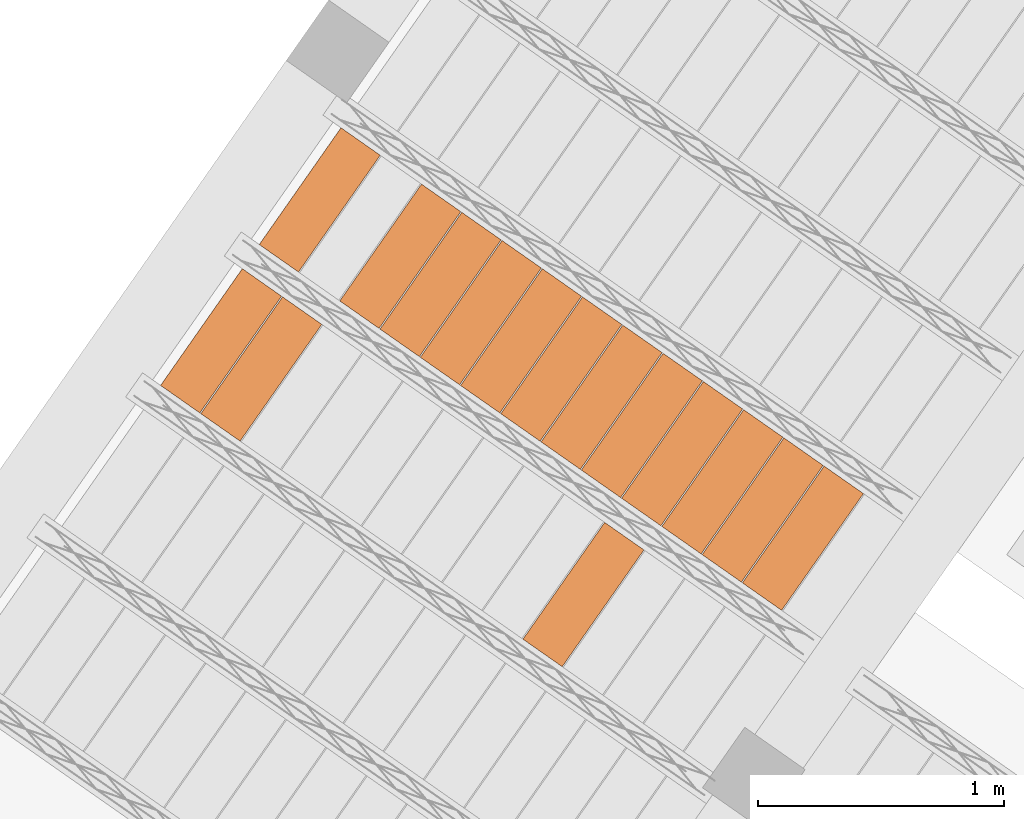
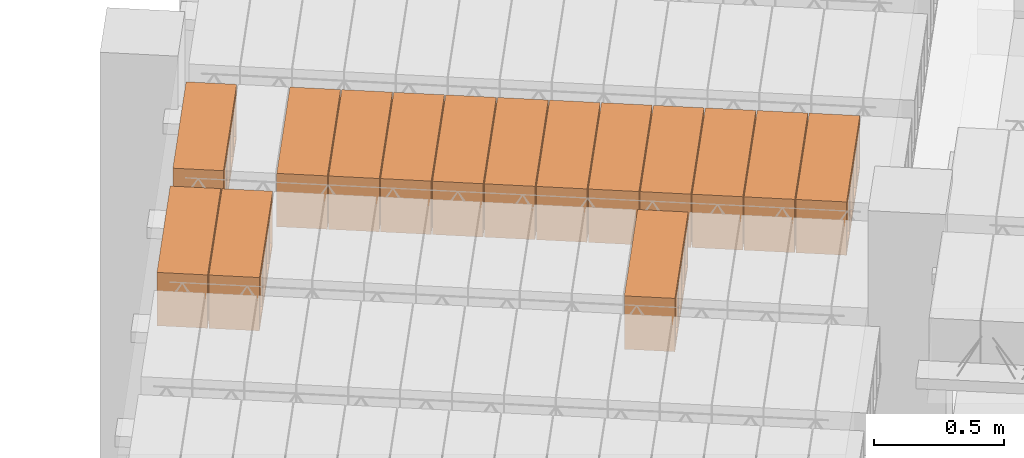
# One storey, part 59 of 80: 15 proxies.
"""IFC2X3 building model written with IfcOpenShell, lengths in metres."""

from ifc_helpers import new_model, entity, si_unit, converted_unit, derived_unit, direction, frame, origin, place, context, subcontext, project, spatial, polyline, outline, extrude, type_object, element, save


model = new_model("IFC2X3")

# Units and contexts
model_context = context("Model", 3, precision=1e-05, world=origin(), true_north=direction((6.123031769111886e-17, 1.0)))
body_context = subcontext(model_context, "Body", "Model", "MODEL_VIEW")
ifc_project = project(units=[si_unit("LENGTHUNIT", "METRE"), si_unit("AREAUNIT", "SQUARE_METRE"), si_unit("VOLUMEUNIT", "CUBIC_METRE"), converted_unit("PLANEANGLEUNIT", "DEGREE", entity("IfcPlaneAngleMeasure", 0.017453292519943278), si_unit("PLANEANGLEUNIT", "RADIAN"), dimensions=[0, 0, 0, 0, 0, 0, 0]), si_unit("MASSUNIT", "GRAM", prefix="KILO"), derived_unit("MASSDENSITYUNIT", [(si_unit("MASSUNIT", "GRAM", prefix="KILO"), 1), (si_unit("LENGTHUNIT", "METRE"), -3)]), derived_unit("IONCONCENTRATIONUNIT", [(si_unit("MASSUNIT", "GRAM", prefix="KILO"), 1), (si_unit("LENGTHUNIT", "METRE"), -3)]), derived_unit("MOMENTOFINERTIAUNIT", [(si_unit("LENGTHUNIT", "METRE"), 4)]), si_unit("TIMEUNIT", "SECOND"), si_unit("FREQUENCYUNIT", "HERTZ"), si_unit("THERMODYNAMICTEMPERATUREUNIT", "DEGREE_CELSIUS"), derived_unit("THERMALTRANSMITTANCEUNIT", [(si_unit("MASSUNIT", "GRAM", prefix="KILO"), 1), (si_unit("THERMODYNAMICTEMPERATUREUNIT", "KELVIN"), -1), (si_unit("TIMEUNIT", "SECOND"), -3)]), derived_unit("THERMALCONDUCTANCEUNIT", [(si_unit("MASSUNIT", "GRAM", prefix="KILO"), 1), (si_unit("THERMODYNAMICTEMPERATUREUNIT", "KELVIN"), -1), (si_unit("TIMEUNIT", "SECOND"), -3), (si_unit("LENGTHUNIT", "METRE"), 1)]), derived_unit("VOLUMETRICFLOWRATEUNIT", [(si_unit("LENGTHUNIT", "METRE", prefix="DECI"), 3), (si_unit("TIMEUNIT", "SECOND"), -1)]), derived_unit("MASSFLOWRATEUNIT", [(si_unit("MASSUNIT", "GRAM", prefix="KILO"), 1), (si_unit("TIMEUNIT", "SECOND"), -1)]), derived_unit("ROTATIONALFREQUENCYUNIT", [(si_unit("TIMEUNIT", "SECOND"), -1)]), si_unit("ELECTRICCURRENTUNIT", "AMPERE"), si_unit("ELECTRICVOLTAGEUNIT", "VOLT"), si_unit("POWERUNIT", "WATT"), si_unit("FORCEUNIT", "NEWTON", prefix="KILO"), si_unit("ILLUMINANCEUNIT", "LUX"), si_unit("LUMINOUSFLUXUNIT", "LUMEN"), si_unit("LUMINOUSINTENSITYUNIT", "CANDELA"), si_unit("ENERGYUNIT", "JOULE"), derived_unit("USERDEFINED", [(si_unit("MASSUNIT", "GRAM", prefix="KILO"), -1), (si_unit("LENGTHUNIT", "METRE"), -2), (si_unit("TIMEUNIT", "SECOND"), 3), (si_unit("LUMINOUSFLUXUNIT", "LUMEN"), 1)]), derived_unit("USERDEFINED", [(si_unit("MASSUNIT", "GRAM", prefix="KILO"), 1), (si_unit("TIMEUNIT", "SECOND"), -3), (si_unit("LENGTHUNIT", "METRE"), 3), (si_unit("ELECTRICCURRENTUNIT", "AMPERE"), -2)]), derived_unit("SOUNDPOWERUNIT", [(si_unit("MASSUNIT", "GRAM", prefix="KILO"), 1), (si_unit("TIMEUNIT", "SECOND"), -3), (si_unit("LENGTHUNIT", "METRE"), 2)]), derived_unit("SOUNDPRESSUREUNIT", [(si_unit("MASSUNIT", "GRAM", prefix="KILO"), 1), (si_unit("LENGTHUNIT", "METRE"), -1), (si_unit("TIMEUNIT", "SECOND"), -2)]), derived_unit("LINEARVELOCITYUNIT", [(si_unit("LENGTHUNIT", "METRE"), 1), (si_unit("TIMEUNIT", "SECOND"), -1)]), si_unit("PRESSUREUNIT", "PASCAL"), derived_unit("USERDEFINED", [(si_unit("MASSUNIT", "GRAM", prefix="KILO"), 1), (si_unit("LENGTHUNIT", "METRE"), -2), (si_unit("TIMEUNIT", "SECOND"), -2)]), derived_unit("LINEARFORCEUNIT", [(si_unit("MASSUNIT", "GRAM", prefix="KILO"), 1), (si_unit("TIMEUNIT", "SECOND"), -2)]), derived_unit("PLANARFORCEUNIT", [(si_unit("MASSUNIT", "GRAM", prefix="KILO"), 1), (si_unit("LENGTHUNIT", "METRE"), -1), (si_unit("TIMEUNIT", "SECOND"), -2)]), derived_unit("SPECIFICHEATCAPACITYUNIT", [(si_unit("THERMODYNAMICTEMPERATUREUNIT", "KELVIN"), -1), (si_unit("LENGTHUNIT", "METRE"), 2), (si_unit("TIMEUNIT", "SECOND"), -2)]), derived_unit("HEATFLUXDENSITYUNIT", [(si_unit("MASSUNIT", "GRAM", prefix="KILO"), 1), (si_unit("TIMEUNIT", "SECOND"), -3)]), derived_unit("HEATINGVALUEUNIT", [(si_unit("LENGTHUNIT", "METRE"), 2), (si_unit("TIMEUNIT", "SECOND"), -2)]), derived_unit("VAPORPERMEABILITYUNIT", [(si_unit("LENGTHUNIT", "METRE"), -1), (si_unit("TIMEUNIT", "SECOND"), 1)]), derived_unit("DYNAMICVISCOSITYUNIT", [(si_unit("MASSUNIT", "GRAM", prefix="KILO"), 1), (si_unit("TIMEUNIT", "SECOND"), -1), (si_unit("LENGTHUNIT", "METRE"), -1)]), derived_unit("THERMALEXPANSIONCOEFFICIENTUNIT", [(si_unit("THERMODYNAMICTEMPERATUREUNIT", "KELVIN"), -1)]), derived_unit("MODULUSOFELASTICITYUNIT", [(si_unit("MASSUNIT", "GRAM", prefix="KILO"), 1), (si_unit("LENGTHUNIT", "METRE"), -1), (si_unit("TIMEUNIT", "SECOND"), -2)]), derived_unit("ISOTHERMALMOISTURECAPACITYUNIT", [(si_unit("MASSUNIT", "GRAM", prefix="KILO"), -1), (si_unit("LENGTHUNIT", "METRE"), 3)]), derived_unit("MOISTUREDIFFUSIVITYUNIT", [(si_unit("TIMEUNIT", "SECOND"), -1), (si_unit("LENGTHUNIT", "METRE"), 2)]), derived_unit("MASSPERLENGTHUNIT", [(si_unit("MASSUNIT", "GRAM", prefix="KILO"), 1), (si_unit("LENGTHUNIT", "METRE"), -1)]), derived_unit("THERMALRESISTANCEUNIT", [(si_unit("MASSUNIT", "GRAM", prefix="KILO"), -1), (si_unit("TIMEUNIT", "SECOND"), 3), (si_unit("THERMODYNAMICTEMPERATUREUNIT", "KELVIN"), 1)]), derived_unit("ACCELERATIONUNIT", [(si_unit("LENGTHUNIT", "METRE"), 1), (si_unit("TIMEUNIT", "SECOND"), -2)]), derived_unit("ANGULARVELOCITYUNIT", [(si_unit("TIMEUNIT", "SECOND"), -1), (si_unit("PLANEANGLEUNIT", "RADIAN"), 1)]), derived_unit("LINEARSTIFFNESSUNIT", [(si_unit("MASSUNIT", "GRAM", prefix="KILO"), 1), (si_unit("TIMEUNIT", "SECOND"), -2)]), derived_unit("WARPINGCONSTANTUNIT", [(si_unit("LENGTHUNIT", "METRE"), 6)]), derived_unit("LINEARMOMENTUNIT", [(si_unit("MASSUNIT", "GRAM", prefix="KILO"), 1), (si_unit("LENGTHUNIT", "METRE"), 1), (si_unit("TIMEUNIT", "SECOND"), -2)]), derived_unit("TORQUEUNIT", [(si_unit("MASSUNIT", "GRAM", prefix="KILO"), 1), (si_unit("LENGTHUNIT", "METRE"), 2), (si_unit("TIMEUNIT", "SECOND"), -2)])], contexts=[model_context])

# Site, building, storey
site_placement = place(None, origin())
site = spatial("IfcSite", under=ifc_project, at=site_placement, Name="Default", CompositionType="ELEMENT")
building_placement = place(site_placement, origin())
building = spatial("IfcBuilding", under=site, at=building_placement, CompositionType="ELEMENT")
storey_placement = place(building_placement, frame((0.0, 0.0, 95.94)))
storey = spatial("IfcBuildingStorey", under=building, at=storey_placement, Name="PB", CompositionType="ELEMENT", Elevation=95.94)

# Proxies
building_element_proxy_type_1 = type_object("IfcBuildingElementProxyType", Name="Bovedilla 3-5 (Paño 2)", PredefinedType="USERDEFINED")
proxy_1_placement = place(storey_placement, origin())
element("IfcBuildingElementProxy", 1, at=proxy_1_placement, inside=storey, type_object=building_element_proxy_type_1, Name="Bovedilla 3-5 (Paño 2)", ObjectType="FORM", context=body_context, shape_type="SweptSolid", body=[
    extrude(outline(polyline([(-0.29, -0.12500000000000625), (0.2900000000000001, -0.12500000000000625), (0.2900000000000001, 0.12500000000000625), (-0.29, 0.12500000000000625), (-0.29, -0.12500000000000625)]), holes=[polyline([(0.2700000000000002, -0.10499999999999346), (0.1550000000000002, -0.10499999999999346), (0.1550000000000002, 0.10499999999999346), (0.2700000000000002, 0.10499999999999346), (0.2700000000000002, 0.042499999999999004), (0.2700000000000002, -0.10499999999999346)]), polyline([(0.009999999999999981, -0.10499999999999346), (0.009999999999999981, 0.10499999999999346), (0.13499999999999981, 0.10499999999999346), (0.13499999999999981, -0.10499999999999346), (0.009999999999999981, -0.10499999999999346)]), polyline([(-0.13499999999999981, 0.10499999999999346), (-0.009999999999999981, 0.10499999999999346), (-0.009999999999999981, -0.10499999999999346), (-0.13499999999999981, -0.10499999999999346), (-0.13499999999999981, 0.10499999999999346)]), polyline([(-0.2700000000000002, -0.10499999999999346), (-0.2700000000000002, 0.042499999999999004), (-0.2700000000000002, 0.10499999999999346), (-0.1550000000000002, 0.10499999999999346), (-0.1550000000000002, -0.10499999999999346), (-0.2700000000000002, -0.10499999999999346)])]), frame((1.3715124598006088, 3.0685572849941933, 2.945000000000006), z_axis=(0.8191520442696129, -0.5735764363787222, 0.0), x_axis=(-0.5735764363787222, -0.8191520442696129, 0.0)), (0.0, 0.0, 1.0), 0.19499999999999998),
])
building_element_proxy_type_2 = type_object("IfcBuildingElementProxyType", Name="Bovedilla 3-13 (Paño 2)", PredefinedType="USERDEFINED")
proxy_2_placement = place(storey_placement, origin())
element("IfcBuildingElementProxy", 2, at=proxy_2_placement, inside=storey, type_object=building_element_proxy_type_2, Name="Bovedilla 3-13 (Paño 2)", ObjectType="FORM", context=body_context, shape_type="SweptSolid", body=[
    extrude(outline(polyline([(-0.29000000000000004, -0.12500000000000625), (0.29000000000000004, -0.12500000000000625), (0.29000000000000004, 0.12500000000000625), (-0.29000000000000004, 0.12500000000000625), (-0.29000000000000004, -0.12500000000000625)]), holes=[polyline([(0.27000000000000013, -0.10499999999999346), (0.15500000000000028, -0.10499999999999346), (0.15500000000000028, 0.10499999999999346), (0.27000000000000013, 0.10499999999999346), (0.27000000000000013, 0.042499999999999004), (0.27000000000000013, -0.10499999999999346)]), polyline([(0.009999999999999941, -0.10499999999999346), (0.009999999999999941, 0.10499999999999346), (0.13499999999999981, 0.10499999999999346), (0.13499999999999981, -0.10499999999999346), (0.009999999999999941, -0.10499999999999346)]), polyline([(-0.13499999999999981, 0.10499999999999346), (-0.009999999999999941, 0.10499999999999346), (-0.009999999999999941, -0.10499999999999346), (-0.13499999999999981, -0.10499999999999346), (-0.13499999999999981, 0.10499999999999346)]), polyline([(-0.27000000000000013, -0.10499999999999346), (-0.27000000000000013, 0.042499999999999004), (-0.27000000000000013, 0.10499999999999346), (-0.15500000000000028, 0.10499999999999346), (-0.15500000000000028, -0.10499999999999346), (-0.27000000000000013, -0.10499999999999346)])]), frame((0.06086918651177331, 3.9862795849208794, 2.945000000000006), z_axis=(0.8191520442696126, -0.5735764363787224, 0.0), x_axis=(-0.5735764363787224, -0.8191520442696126, 0.0)), (0.0, 0.0, 1.0), 0.19500000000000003),
])
building_element_proxy_type_3 = type_object("IfcBuildingElementProxyType", Name="Bovedilla 3-14 (Paño 2)", PredefinedType="USERDEFINED")
proxy_3_placement = place(storey_placement, origin())
element("IfcBuildingElementProxy", 3, at=proxy_3_placement, inside=storey, type_object=building_element_proxy_type_3, Name="Bovedilla 3-14 (Paño 2)", ObjectType="FORM", context=body_context, shape_type="SweptSolid", body=[
    extrude(outline(polyline([(-0.29000000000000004, -0.12500000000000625), (0.29000000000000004, -0.12500000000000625), (0.29000000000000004, 0.12500000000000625), (-0.29000000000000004, 0.12500000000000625), (-0.29000000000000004, -0.12500000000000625)]), holes=[polyline([(0.27000000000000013, -0.10499999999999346), (0.15500000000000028, -0.10499999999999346), (0.15500000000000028, 0.10499999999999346), (0.27000000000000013, 0.10499999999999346), (0.27000000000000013, 0.042499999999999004), (0.27000000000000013, -0.10499999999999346)]), polyline([(0.009999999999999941, -0.10499999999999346), (0.009999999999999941, 0.10499999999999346), (0.13499999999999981, 0.10499999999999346), (0.13499999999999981, -0.10499999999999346), (0.009999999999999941, -0.10499999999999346)]), polyline([(-0.13499999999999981, 0.10499999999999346), (-0.009999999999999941, 0.10499999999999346), (-0.009999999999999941, -0.10499999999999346), (-0.13499999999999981, -0.10499999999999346), (-0.13499999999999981, 0.10499999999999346)]), polyline([(-0.27000000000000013, -0.10499999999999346), (-0.27000000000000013, 0.042499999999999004), (-0.27000000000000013, 0.10499999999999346), (-0.15500000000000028, 0.10499999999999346), (-0.15500000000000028, -0.10499999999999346), (-0.27000000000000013, -0.10499999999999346)])]), frame((-0.1029612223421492, 4.100994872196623, 2.945000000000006), z_axis=(0.8191520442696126, -0.5735764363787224, 0.0), x_axis=(-0.5735764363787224, -0.8191520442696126, 0.0)), (0.0, 0.0, 1.0), 0.19500000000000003),
])
building_element_proxy_type_4 = type_object("IfcBuildingElementProxyType", Name="Bovedilla 4-2 (Paño 2)", PredefinedType="USERDEFINED")
proxy_4_placement = place(storey_placement, origin())
element("IfcBuildingElementProxy", 4, at=proxy_4_placement, inside=storey, type_object=building_element_proxy_type_4, Name="Bovedilla 4-2 (Paño 2)", ObjectType="FORM", context=body_context, shape_type="SweptSolid", body=[
    extrude(outline(polyline([(-0.29, -0.12500000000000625), (0.29, -0.12500000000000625), (0.29, 0.12500000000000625), (-0.29, 0.12500000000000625), (-0.29, -0.12500000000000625)]), holes=[polyline([(0.2700000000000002, -0.10499999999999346), (0.1550000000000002, -0.10499999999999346), (0.1550000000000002, 0.10499999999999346), (0.2700000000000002, 0.10499999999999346), (0.2700000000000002, 0.042499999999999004), (0.2700000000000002, -0.10499999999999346)]), polyline([(0.009999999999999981, -0.10499999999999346), (0.009999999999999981, 0.10499999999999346), (0.13499999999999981, 0.10499999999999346), (0.13499999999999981, -0.10499999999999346), (0.009999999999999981, -0.10499999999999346)]), polyline([(-0.13499999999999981, 0.10499999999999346), (-0.009999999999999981, 0.10499999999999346), (-0.009999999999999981, -0.10499999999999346), (-0.13499999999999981, -0.10499999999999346), (-0.13499999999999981, 0.10499999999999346)]), polyline([(-0.2700000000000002, -0.10499999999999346), (-0.2700000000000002, 0.042499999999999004), (-0.2700000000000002, 0.10499999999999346), (-0.1550000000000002, 0.10499999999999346), (-0.1550000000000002, -0.10499999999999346), (-0.2700000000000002, -0.10499999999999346)])]), frame((2.2645071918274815, 3.2978178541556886, 2.945000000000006), z_axis=(0.819152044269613, -0.5735764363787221, 0.0), x_axis=(-0.5735764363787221, -0.819152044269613, 0.0)), (0.0, 0.0, 1.0), 0.19499999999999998),
])
building_element_proxy_type_5 = type_object("IfcBuildingElementProxyType", Name="Bovedilla 4-3 (Paño 2)", PredefinedType="USERDEFINED")
proxy_5_placement = place(storey_placement, origin())
element("IfcBuildingElementProxy", 5, at=proxy_5_placement, inside=storey, type_object=building_element_proxy_type_5, Name="Bovedilla 4-3 (Paño 2)", ObjectType="FORM", context=body_context, shape_type="SweptSolid", body=[
    extrude(outline(polyline([(-0.29, -0.12500000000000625), (0.29, -0.12500000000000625), (0.29, 0.12500000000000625), (-0.29, 0.12500000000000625), (-0.29, -0.12500000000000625)]), holes=[polyline([(0.2700000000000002, -0.10499999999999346), (0.1550000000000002, -0.10499999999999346), (0.1550000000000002, 0.10499999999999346), (0.2700000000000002, 0.10499999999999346), (0.2700000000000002, 0.042499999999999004), (0.2700000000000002, -0.10499999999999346)]), polyline([(0.009999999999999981, -0.10499999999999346), (0.009999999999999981, 0.10499999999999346), (0.13499999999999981, 0.10499999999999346), (0.13499999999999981, -0.10499999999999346), (0.009999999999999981, -0.10499999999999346)]), polyline([(-0.13499999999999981, 0.10499999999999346), (-0.009999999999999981, 0.10499999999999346), (-0.009999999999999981, -0.10499999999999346), (-0.13499999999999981, -0.10499999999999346), (-0.13499999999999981, 0.10499999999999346)]), polyline([(-0.2700000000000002, -0.10499999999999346), (-0.2700000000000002, 0.042499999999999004), (-0.2700000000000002, 0.10499999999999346), (-0.1550000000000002, 0.10499999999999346), (-0.1550000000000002, -0.10499999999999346), (-0.2700000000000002, -0.10499999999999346)])]), frame((2.100676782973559, 3.412533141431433, 2.945000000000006), z_axis=(0.819152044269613, -0.5735764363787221, 0.0), x_axis=(-0.5735764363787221, -0.819152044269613, 0.0)), (0.0, 0.0, 1.0), 0.19499999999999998),
])
building_element_proxy_type_6 = type_object("IfcBuildingElementProxyType", Name="Bovedilla 4-4 (Paño 2)", PredefinedType="USERDEFINED")
proxy_6_placement = place(storey_placement, origin())
element("IfcBuildingElementProxy", 6, at=proxy_6_placement, inside=storey, type_object=building_element_proxy_type_6, Name="Bovedilla 4-4 (Paño 2)", ObjectType="FORM", context=body_context, shape_type="SweptSolid", body=[
    extrude(outline(polyline([(-0.29, -0.12500000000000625), (0.29, -0.12500000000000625), (0.29, 0.12500000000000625), (-0.29, 0.12500000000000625), (-0.29, -0.12500000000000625)]), holes=[polyline([(0.2700000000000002, -0.10499999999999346), (0.1550000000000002, -0.10499999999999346), (0.1550000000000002, 0.10499999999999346), (0.2700000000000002, 0.10499999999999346), (0.2700000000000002, 0.042499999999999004), (0.2700000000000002, -0.10499999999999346)]), polyline([(0.009999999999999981, -0.10499999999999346), (0.009999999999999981, 0.10499999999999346), (0.13499999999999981, 0.10499999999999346), (0.13499999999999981, -0.10499999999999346), (0.009999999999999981, -0.10499999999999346)]), polyline([(-0.13499999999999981, 0.10499999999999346), (-0.009999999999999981, 0.10499999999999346), (-0.009999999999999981, -0.10499999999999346), (-0.13499999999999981, -0.10499999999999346), (-0.13499999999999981, 0.10499999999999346)]), polyline([(-0.2700000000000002, -0.10499999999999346), (-0.2700000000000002, 0.042499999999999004), (-0.2700000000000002, 0.10499999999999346), (-0.1550000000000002, 0.10499999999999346), (-0.1550000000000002, -0.10499999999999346), (-0.2700000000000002, -0.10499999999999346)])]), frame((1.9368463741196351, 3.5272484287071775, 2.945000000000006), z_axis=(0.819152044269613, -0.5735764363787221, 0.0), x_axis=(-0.5735764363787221, -0.819152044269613, 0.0)), (0.0, 0.0, 1.0), 0.19499999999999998),
])
building_element_proxy_type_7 = type_object("IfcBuildingElementProxyType", Name="Bovedilla 4-5 (Paño 2)", PredefinedType="USERDEFINED")
proxy_7_placement = place(storey_placement, origin())
element("IfcBuildingElementProxy", 7, at=proxy_7_placement, inside=storey, type_object=building_element_proxy_type_7, Name="Bovedilla 4-5 (Paño 2)", ObjectType="FORM", context=body_context, shape_type="SweptSolid", body=[
    extrude(outline(polyline([(-0.29, -0.12500000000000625), (0.29, -0.12500000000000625), (0.29, 0.12500000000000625), (-0.29, 0.12500000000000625), (-0.29, -0.12500000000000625)]), holes=[polyline([(0.2700000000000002, -0.10499999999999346), (0.1550000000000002, -0.10499999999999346), (0.1550000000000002, 0.10499999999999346), (0.2700000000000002, 0.10499999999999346), (0.2700000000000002, 0.042499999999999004), (0.2700000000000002, -0.10499999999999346)]), polyline([(0.009999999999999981, -0.10499999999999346), (0.009999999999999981, 0.10499999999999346), (0.13499999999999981, 0.10499999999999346), (0.13499999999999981, -0.10499999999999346), (0.009999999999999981, -0.10499999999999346)]), polyline([(-0.13499999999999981, 0.10499999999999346), (-0.009999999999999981, 0.10499999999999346), (-0.009999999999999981, -0.10499999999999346), (-0.13499999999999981, -0.10499999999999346), (-0.13499999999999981, 0.10499999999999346)]), polyline([(-0.2700000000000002, -0.10499999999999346), (-0.2700000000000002, 0.042499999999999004), (-0.2700000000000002, 0.10499999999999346), (-0.1550000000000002, 0.10499999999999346), (-0.1550000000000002, -0.10499999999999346), (-0.2700000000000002, -0.10499999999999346)])]), frame((1.7730159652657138, 3.6419637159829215, 2.945000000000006), z_axis=(0.819152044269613, -0.5735764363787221, 0.0), x_axis=(-0.5735764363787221, -0.819152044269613, 0.0)), (0.0, 0.0, 1.0), 0.19499999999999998),
])
building_element_proxy_type_8 = type_object("IfcBuildingElementProxyType", Name="Bovedilla 4-6 (Paño 2)", PredefinedType="USERDEFINED")
proxy_8_placement = place(storey_placement, origin())
element("IfcBuildingElementProxy", 8, at=proxy_8_placement, inside=storey, type_object=building_element_proxy_type_8, Name="Bovedilla 4-6 (Paño 2)", ObjectType="FORM", context=body_context, shape_type="SweptSolid", body=[
    extrude(outline(polyline([(-0.29, -0.12500000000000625), (0.29, -0.12500000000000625), (0.29, 0.12500000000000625), (-0.29, 0.12500000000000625), (-0.29, -0.12500000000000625)]), holes=[polyline([(0.2700000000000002, -0.10499999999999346), (0.1550000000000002, -0.10499999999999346), (0.1550000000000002, 0.10499999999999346), (0.2700000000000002, 0.10499999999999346), (0.2700000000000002, 0.042499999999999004), (0.2700000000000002, -0.10499999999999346)]), polyline([(0.009999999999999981, -0.10499999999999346), (0.009999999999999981, 0.10499999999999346), (0.13499999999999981, 0.10499999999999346), (0.13499999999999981, -0.10499999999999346), (0.009999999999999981, -0.10499999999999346)]), polyline([(-0.13499999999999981, 0.10499999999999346), (-0.009999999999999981, 0.10499999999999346), (-0.009999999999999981, -0.10499999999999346), (-0.13499999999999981, -0.10499999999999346), (-0.13499999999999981, 0.10499999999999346)]), polyline([(-0.2700000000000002, -0.10499999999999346), (-0.2700000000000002, 0.042499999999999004), (-0.2700000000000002, 0.10499999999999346), (-0.1550000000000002, 0.10499999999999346), (-0.1550000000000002, -0.10499999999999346), (-0.2700000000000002, -0.10499999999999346)])]), frame((1.6091855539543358, 3.7566790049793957, 2.945000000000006), z_axis=(0.819152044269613, -0.5735764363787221, 0.0), x_axis=(-0.5735764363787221, -0.819152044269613, 0.0)), (0.0, 0.0, 1.0), 0.19499999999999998),
])
building_element_proxy_type_9 = type_object("IfcBuildingElementProxyType", Name="Bovedilla 4-7 (Paño 2)", PredefinedType="USERDEFINED")
proxy_9_placement = place(storey_placement, origin())
element("IfcBuildingElementProxy", 9, at=proxy_9_placement, inside=storey, type_object=building_element_proxy_type_9, Name="Bovedilla 4-7 (Paño 2)", ObjectType="FORM", context=body_context, shape_type="SweptSolid", body=[
    extrude(outline(polyline([(-0.29, -0.12500000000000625), (0.29, -0.12500000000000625), (0.29, 0.12500000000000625), (-0.29, 0.12500000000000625), (-0.29, -0.12500000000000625)]), holes=[polyline([(0.2700000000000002, -0.10499999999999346), (0.1550000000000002, -0.10499999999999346), (0.1550000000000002, 0.10499999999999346), (0.2700000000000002, 0.10499999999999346), (0.2700000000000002, 0.042499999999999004), (0.2700000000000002, -0.10499999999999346)]), polyline([(0.009999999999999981, -0.10499999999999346), (0.009999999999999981, 0.10499999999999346), (0.13499999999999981, 0.10499999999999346), (0.13499999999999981, -0.10499999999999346), (0.009999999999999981, -0.10499999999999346)]), polyline([(-0.13499999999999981, 0.10499999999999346), (-0.009999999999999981, 0.10499999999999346), (-0.009999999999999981, -0.10499999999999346), (-0.13499999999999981, -0.10499999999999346), (-0.13499999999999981, 0.10499999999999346)]), polyline([(-0.2700000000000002, -0.10499999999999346), (-0.2700000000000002, 0.042499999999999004), (-0.2700000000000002, 0.10499999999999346), (-0.1550000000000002, 0.10499999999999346), (-0.1550000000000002, -0.10499999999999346), (-0.2700000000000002, -0.10499999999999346)])]), frame((1.4453551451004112, 3.8713942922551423, 2.945000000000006), z_axis=(0.819152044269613, -0.5735764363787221, 0.0), x_axis=(-0.5735764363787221, -0.819152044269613, 0.0)), (0.0, 0.0, 1.0), 0.19499999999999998),
])
building_element_proxy_type_10 = type_object("IfcBuildingElementProxyType", Name="Bovedilla 4-8 (Paño 2)", PredefinedType="USERDEFINED")
proxy_10_placement = place(storey_placement, origin())
element("IfcBuildingElementProxy", 10, at=proxy_10_placement, inside=storey, type_object=building_element_proxy_type_10, Name="Bovedilla 4-8 (Paño 2)", ObjectType="FORM", context=body_context, shape_type="SweptSolid", body=[
    extrude(outline(polyline([(-0.29, -0.12500000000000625), (0.2900000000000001, -0.12500000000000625), (0.2900000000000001, 0.12500000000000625), (-0.29, 0.12500000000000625), (-0.29, -0.12500000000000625)]), holes=[polyline([(0.2700000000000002, -0.10499999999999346), (0.1550000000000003, -0.10499999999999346), (0.1550000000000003, 0.10499999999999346), (0.2700000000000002, 0.10499999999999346), (0.2700000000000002, 0.042499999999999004), (0.2700000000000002, -0.10499999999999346)]), polyline([(0.009999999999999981, -0.10499999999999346), (0.009999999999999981, 0.10499999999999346), (0.13499999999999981, 0.10499999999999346), (0.13499999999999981, -0.10499999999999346), (0.009999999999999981, -0.10499999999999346)]), polyline([(-0.13499999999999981, 0.10499999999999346), (-0.009999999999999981, 0.10499999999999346), (-0.009999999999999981, -0.10499999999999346), (-0.13499999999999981, -0.10499999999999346), (-0.13499999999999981, 0.10499999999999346)]), polyline([(-0.2700000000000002, -0.10499999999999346), (-0.2700000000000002, 0.042499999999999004), (-0.2700000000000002, 0.10499999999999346), (-0.1550000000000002, 0.10499999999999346), (-0.1550000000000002, -0.10499999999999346), (-0.2700000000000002, -0.10499999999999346)])]), frame((1.2815247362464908, 3.9861095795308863, 2.945000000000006), z_axis=(0.8191520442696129, -0.5735764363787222, 0.0), x_axis=(-0.5735764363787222, -0.8191520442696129, 0.0)), (0.0, 0.0, 1.0), 0.19499999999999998),
])
building_element_proxy_type_11 = type_object("IfcBuildingElementProxyType", Name="Bovedilla 4-9 (Paño 2)", PredefinedType="USERDEFINED")
proxy_11_placement = place(storey_placement, origin())
element("IfcBuildingElementProxy", 11, at=proxy_11_placement, inside=storey, type_object=building_element_proxy_type_11, Name="Bovedilla 4-9 (Paño 2)", ObjectType="FORM", context=body_context, shape_type="SweptSolid", body=[
    extrude(outline(polyline([(-0.29, -0.12500000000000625), (0.2900000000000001, -0.12500000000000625), (0.2900000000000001, 0.12500000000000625), (-0.29, 0.12500000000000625), (-0.29, -0.12500000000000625)]), holes=[polyline([(0.2700000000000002, -0.10499999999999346), (0.1550000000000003, -0.10499999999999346), (0.1550000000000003, 0.10499999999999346), (0.2700000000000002, 0.10499999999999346), (0.2700000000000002, 0.042499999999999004), (0.2700000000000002, -0.10499999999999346)]), polyline([(0.009999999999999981, -0.10499999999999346), (0.009999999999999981, 0.10499999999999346), (0.13499999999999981, 0.10499999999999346), (0.13499999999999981, -0.10499999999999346), (0.009999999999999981, -0.10499999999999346)]), polyline([(-0.13499999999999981, 0.10499999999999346), (-0.009999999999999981, 0.10499999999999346), (-0.009999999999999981, -0.10499999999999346), (-0.13499999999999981, -0.10499999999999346), (-0.13499999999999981, 0.10499999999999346)]), polyline([(-0.2700000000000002, -0.10499999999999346), (-0.2700000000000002, 0.042499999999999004), (-0.2700000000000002, 0.10499999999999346), (-0.1550000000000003, 0.10499999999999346), (-0.1550000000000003, -0.10499999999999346), (-0.2700000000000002, -0.10499999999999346)])]), frame((1.1176943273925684, 4.10082486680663, 2.945000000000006), z_axis=(0.8191520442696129, -0.5735764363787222, 0.0), x_axis=(-0.5735764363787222, -0.8191520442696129, 0.0)), (0.0, 0.0, 1.0), 0.19499999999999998),
])
building_element_proxy_type_12 = type_object("IfcBuildingElementProxyType", Name="Bovedilla 4-10 (Paño 2)", PredefinedType="USERDEFINED")
proxy_12_placement = place(storey_placement, origin())
element("IfcBuildingElementProxy", 12, at=proxy_12_placement, inside=storey, type_object=building_element_proxy_type_12, Name="Bovedilla 4-10 (Paño 2)", ObjectType="FORM", context=body_context, shape_type="SweptSolid", body=[
    extrude(outline(polyline([(-0.29000000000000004, -0.12500000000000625), (0.29000000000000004, -0.12500000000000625), (0.29000000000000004, 0.12500000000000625), (-0.29000000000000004, 0.12500000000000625), (-0.29000000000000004, -0.12500000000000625)]), holes=[polyline([(0.27000000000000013, -0.10499999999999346), (0.15500000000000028, -0.10499999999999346), (0.15500000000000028, 0.10499999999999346), (0.27000000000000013, 0.10499999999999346), (0.27000000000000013, 0.042499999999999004), (0.27000000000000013, -0.10499999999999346)]), polyline([(0.00999999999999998, -0.10499999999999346), (0.00999999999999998, 0.10499999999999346), (0.1349999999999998, 0.10499999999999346), (0.1349999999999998, -0.10499999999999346), (0.00999999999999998, -0.10499999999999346)]), polyline([(-0.1349999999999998, 0.10499999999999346), (-0.00999999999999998, 0.10499999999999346), (-0.00999999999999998, -0.10499999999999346), (-0.1349999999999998, -0.10499999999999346), (-0.1349999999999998, 0.10499999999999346)]), polyline([(-0.27000000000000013, -0.10499999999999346), (-0.27000000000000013, 0.042499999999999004), (-0.27000000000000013, 0.10499999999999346), (-0.15500000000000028, 0.10499999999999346), (-0.15500000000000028, -0.10499999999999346), (-0.27000000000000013, -0.10499999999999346)])]), frame((0.9538639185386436, 4.215540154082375, 2.945000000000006), z_axis=(0.8191520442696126, -0.5735764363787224, 0.0), x_axis=(-0.5735764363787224, -0.8191520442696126, 0.0)), (0.0, 0.0, 1.0), 0.19500000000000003),
])
building_element_proxy_type_13 = type_object("IfcBuildingElementProxyType", Name="Bovedilla 4-11 (Paño 2)", PredefinedType="USERDEFINED")
proxy_13_placement = place(storey_placement, origin())
element("IfcBuildingElementProxy", 13, at=proxy_13_placement, inside=storey, type_object=building_element_proxy_type_13, Name="Bovedilla 4-11 (Paño 2)", ObjectType="FORM", context=body_context, shape_type="SweptSolid", body=[
    extrude(outline(polyline([(-0.29000000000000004, -0.12500000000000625), (0.29000000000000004, -0.12500000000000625), (0.29000000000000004, 0.12500000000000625), (-0.29000000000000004, 0.12500000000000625), (-0.29000000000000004, -0.12500000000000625)]), holes=[polyline([(0.27000000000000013, -0.10499999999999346), (0.15500000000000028, -0.10499999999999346), (0.15500000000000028, 0.10499999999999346), (0.27000000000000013, 0.10499999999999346), (0.27000000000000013, 0.042499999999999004), (0.27000000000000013, -0.10499999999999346)]), polyline([(0.00999999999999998, -0.10499999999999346), (0.00999999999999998, 0.10499999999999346), (0.1349999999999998, 0.10499999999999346), (0.1349999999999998, -0.10499999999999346), (0.00999999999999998, -0.10499999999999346)]), polyline([(-0.1349999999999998, 0.10499999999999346), (-0.00999999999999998, 0.10499999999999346), (-0.00999999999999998, -0.10499999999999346), (-0.1349999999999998, -0.10499999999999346), (-0.1349999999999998, 0.10499999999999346)]), polyline([(-0.27000000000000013, -0.10499999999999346), (-0.27000000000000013, 0.042499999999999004), (-0.27000000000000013, 0.10499999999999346), (-0.15500000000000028, 0.10499999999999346), (-0.15500000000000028, -0.10499999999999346), (-0.27000000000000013, -0.10499999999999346)])]), frame((0.7900335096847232, 4.330255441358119, 2.945000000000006), z_axis=(0.8191520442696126, -0.5735764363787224, 0.0), x_axis=(-0.5735764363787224, -0.8191520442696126, 0.0)), (0.0, 0.0, 1.0), 0.19500000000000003),
])
building_element_proxy_type_14 = type_object("IfcBuildingElementProxyType", Name="Bovedilla 4-12 (Paño 2)", PredefinedType="USERDEFINED")
proxy_14_placement = place(storey_placement, origin())
element("IfcBuildingElementProxy", 14, at=proxy_14_placement, inside=storey, type_object=building_element_proxy_type_14, Name="Bovedilla 4-12 (Paño 2)", ObjectType="FORM", context=body_context, shape_type="SweptSolid", body=[
    extrude(outline(polyline([(-0.29000000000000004, -0.12500000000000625), (0.29000000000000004, -0.12500000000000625), (0.29000000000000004, 0.12500000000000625), (-0.29000000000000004, 0.12500000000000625), (-0.29000000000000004, -0.12500000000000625)]), holes=[polyline([(0.27000000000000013, -0.10499999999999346), (0.15500000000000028, -0.10499999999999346), (0.15500000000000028, 0.10499999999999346), (0.27000000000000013, 0.10499999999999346), (0.27000000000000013, 0.042499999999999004), (0.27000000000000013, -0.10499999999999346)]), polyline([(0.00999999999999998, -0.10499999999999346), (0.00999999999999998, 0.10499999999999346), (0.1349999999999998, 0.10499999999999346), (0.1349999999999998, -0.10499999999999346), (0.00999999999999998, -0.10499999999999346)]), polyline([(-0.1349999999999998, 0.10499999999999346), (-0.00999999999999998, 0.10499999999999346), (-0.00999999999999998, -0.10499999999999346), (-0.1349999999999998, -0.10499999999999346), (-0.1349999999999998, 0.10499999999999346)]), polyline([(-0.27000000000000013, -0.10499999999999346), (-0.27000000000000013, 0.042499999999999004), (-0.27000000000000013, 0.10499999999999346), (-0.15500000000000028, 0.10499999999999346), (-0.15500000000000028, -0.10499999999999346), (-0.27000000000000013, -0.10499999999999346)])]), frame((0.6262031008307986, 4.444970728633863, 2.945000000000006), z_axis=(0.8191520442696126, -0.5735764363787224, 0.0), x_axis=(-0.5735764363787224, -0.8191520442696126, 0.0)), (0.0, 0.0, 1.0), 0.19500000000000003),
])
building_element_proxy_type_15 = type_object("IfcBuildingElementProxyType", Name="Bovedilla 4-14 (Paño 2)", PredefinedType="USERDEFINED")
proxy_15_placement = place(storey_placement, origin())
element("IfcBuildingElementProxy", 15, at=proxy_15_placement, inside=storey, type_object=building_element_proxy_type_15, Name="Bovedilla 4-14 (Paño 2)", ObjectType="FORM", context=body_context, shape_type="SweptSolid", body=[
    extrude(outline(polyline([(-0.2899999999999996, -0.12500000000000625), (0.29000000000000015, -0.12500000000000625), (0.29000000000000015, 0.12500000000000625), (-0.2899999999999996, 0.12500000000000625), (-0.2899999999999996, -0.12500000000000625)]), holes=[polyline([(0.2700000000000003, -0.10499999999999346), (0.1550000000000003, -0.10499999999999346), (0.1550000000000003, 0.10499999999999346), (0.2700000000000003, 0.10499999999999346), (0.2700000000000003, 0.042499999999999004), (0.2700000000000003, -0.10499999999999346)]), polyline([(0.009999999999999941, -0.10499999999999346), (0.009999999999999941, 0.10499999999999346), (0.13499999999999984, 0.10499999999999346), (0.13499999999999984, -0.10499999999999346), (0.009999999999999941, -0.10499999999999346)]), polyline([(-0.13499999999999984, 0.10499999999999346), (-0.009999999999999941, 0.10499999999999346), (-0.009999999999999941, -0.10499999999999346), (-0.13499999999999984, -0.10499999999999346), (-0.13499999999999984, 0.10499999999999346)]), polyline([(-0.2699999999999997, -0.10499999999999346), (-0.2699999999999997, 0.042499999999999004), (-0.2699999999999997, 0.10499999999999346), (-0.1550000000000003, 0.10499999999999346), (-0.1550000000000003, -0.10499999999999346), (-0.2699999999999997, -0.10499999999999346)])]), frame((0.29854228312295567, 4.674401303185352, 2.945000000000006), z_axis=(0.8191520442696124, -0.5735764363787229, 0.0), x_axis=(-0.5735764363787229, -0.8191520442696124, 0.0)), (0.0, 0.0, 1.0), 0.19499999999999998),
])

save(model, "model.ifc")
